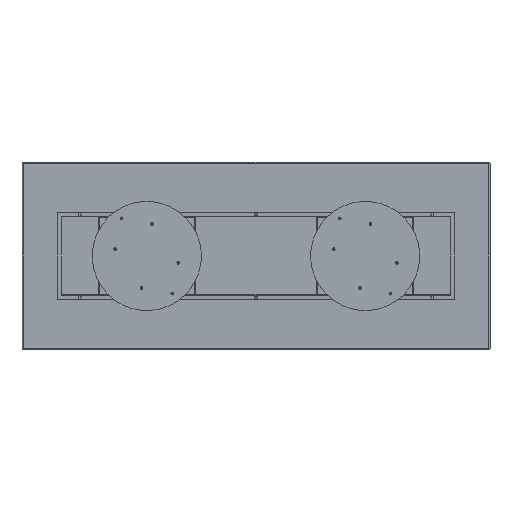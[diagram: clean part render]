
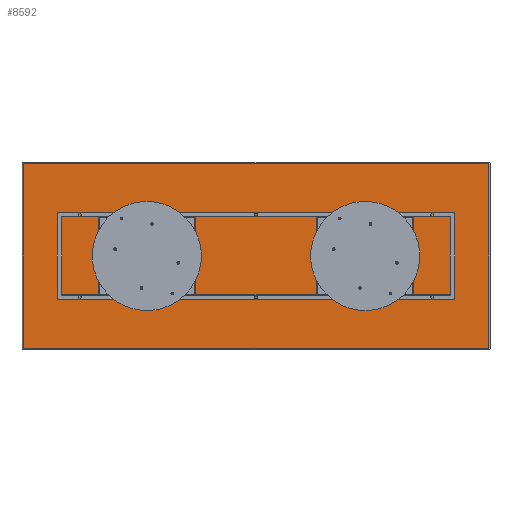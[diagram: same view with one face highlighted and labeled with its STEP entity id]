
A CAD part, front view. The second image highlights one B-rep face of the part: STEP entity #8592.
In plain terms, the highlighted planar face has unit normal (0, -1, 0).
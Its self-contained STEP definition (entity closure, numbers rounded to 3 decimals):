
#118 = EDGE_CURVE ( 'NONE', #1169, #2812, #10493, .T. ) ;
#509 = PLANE ( 'NONE',  #18347 ) ;
#1169 = VERTEX_POINT ( 'NONE', #12639 ) ;
#2609 = CARTESIAN_POINT ( 'NONE',  ( 0., 0., 0. ) ) ;
#2717 = LINE ( 'NONE', #7635, #8531 ) ;
#2812 = VERTEX_POINT ( 'NONE', #12278 ) ;
#2952 = CARTESIAN_POINT ( 'NONE',  ( 0., 0., -592. ) ) ;
#3065 = CARTESIAN_POINT ( 'NONE',  ( -1492., 0., 0. ) ) ;
#3204 = ORIENTED_EDGE ( 'NONE', *, *, #8618, .T. ) ;
#4130 = DIRECTION ( 'NONE',  ( 0., 0., 1. ) ) ;
#4619 = EDGE_LOOP ( 'NONE', ( #19609, #3204, #13711, #9895 ) ) ;
#5356 = VECTOR ( 'NONE', #18166, 1000. ) ;
#5435 = VECTOR ( 'NONE', #14001, 1000. ) ;
#7536 = VERTEX_POINT ( 'NONE', #11452 ) ;
#7635 = CARTESIAN_POINT ( 'NONE',  ( 0., 0., 592. ) ) ;
#8531 = VECTOR ( 'NONE', #19356, 1000. ) ;
#8592 = ADVANCED_FACE ( 'NONE', ( #12454 ), #509, .F. ) ;
#8618 = EDGE_CURVE ( 'NONE', #2812, #7536, #2717, .T. ) ;
#9895 = ORIENTED_EDGE ( 'NONE', *, *, #19599, .T. ) ;
#10493 = LINE ( 'NONE', #18927, #5435 ) ;
#11085 = CARTESIAN_POINT ( 'NONE',  ( -1492., 0., -592. ) ) ;
#11452 = CARTESIAN_POINT ( 'NONE',  ( -1492., 0., 592. ) ) ;
#12278 = CARTESIAN_POINT ( 'NONE',  ( 1492., 0., 592. ) ) ;
#12454 = FACE_OUTER_BOUND ( 'NONE', #4619, .T. ) ;
#12639 = CARTESIAN_POINT ( 'NONE',  ( 1492., 0., -592. ) ) ;
#13711 = ORIENTED_EDGE ( 'NONE', *, *, #20867, .T. ) ;
#14001 = DIRECTION ( 'NONE',  ( 0., 0., 1. ) ) ;
#14030 = VECTOR ( 'NONE', #21348, 1000. ) ;
#16090 = LINE ( 'NONE', #2952, #5356 ) ;
#16417 = LINE ( 'NONE', #3065, #14030 ) ;
#18166 = DIRECTION ( 'NONE',  ( 1., 0., 0. ) ) ;
#18347 = AXIS2_PLACEMENT_3D ( 'NONE', #2609, #20551, #4130 ) ;
#18447 = VERTEX_POINT ( 'NONE', #11085 ) ;
#18927 = CARTESIAN_POINT ( 'NONE',  ( 1492., 0., 0. ) ) ;
#19356 = DIRECTION ( 'NONE',  ( -1., 0., 0. ) ) ;
#19599 = EDGE_CURVE ( 'NONE', #18447, #1169, #16090, .T. ) ;
#19609 = ORIENTED_EDGE ( 'NONE', *, *, #118, .T. ) ;
#20551 = DIRECTION ( 'NONE',  ( 0., 1., 0. ) ) ;
#20867 = EDGE_CURVE ( 'NONE', #7536, #18447, #16417, .T. ) ;
#21348 = DIRECTION ( 'NONE',  ( 0., 0., -1. ) ) ;
